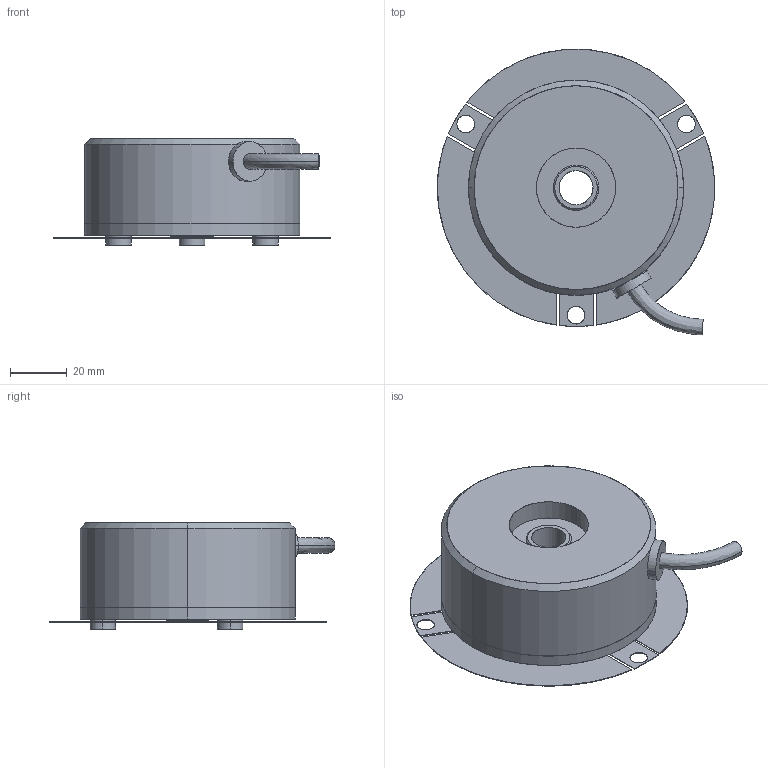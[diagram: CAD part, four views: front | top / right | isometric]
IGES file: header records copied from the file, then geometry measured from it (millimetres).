
Start section: SolidWorks IGES file using analytic representation for surfaces
Bounding box: 97.96 x 100.99 x 37.6 mm (x, y, z)
Surface area: 45866.3 mm2 (no closed solid volume)
Topology: 0 solids, 0 shells, 195 faces, 3520 edges, 3520 vertices
Faces by surface type: revolution 115, bspline 80
